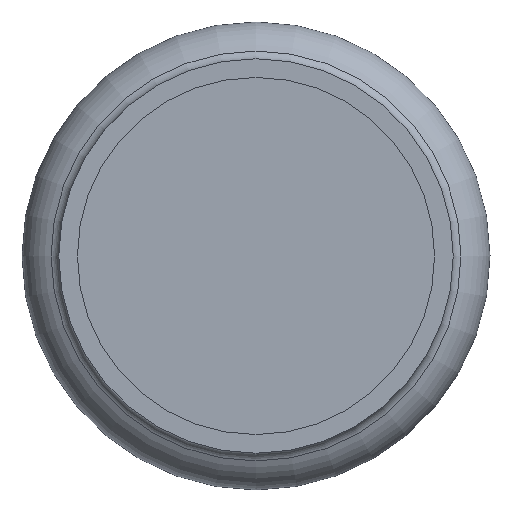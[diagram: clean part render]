
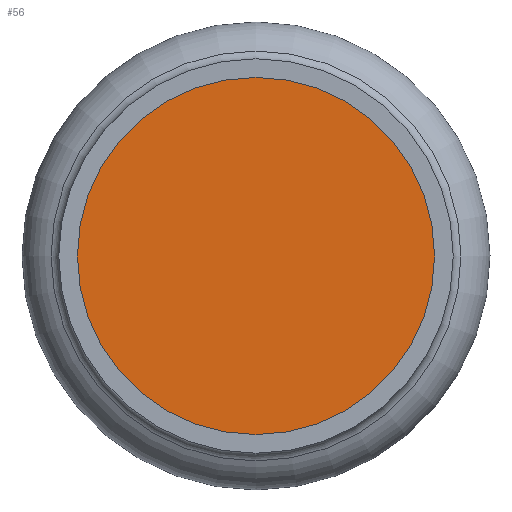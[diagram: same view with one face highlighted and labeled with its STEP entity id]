
A CAD part, front view. The second image highlights one B-rep face of the part: STEP entity #56.
In plain terms, the highlighted planar face has unit normal (0, -1, 0).
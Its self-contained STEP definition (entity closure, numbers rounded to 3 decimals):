
#56=ADVANCED_FACE('',(#97),#99,.T.);
#97=FACE_BOUND('',#98,.T.);
#98=EDGE_LOOP('',(#244));
#99=PLANE('',#100);
#100=AXIS2_PLACEMENT_3D('',#101,#102,#103);
#101=CARTESIAN_POINT('',(0.,-27.219,0.));
#102=DIRECTION('',(0.,-1.,0.));
#103=DIRECTION('',(0.,0.,-1.));
#244=ORIENTED_EDGE('',*,*,#277,.T.);
#277=EDGE_CURVE('',#297,#297,#298,.F.);
#297=VERTEX_POINT('',#339);
#298=CIRCLE('',#340,14.15);
#339=CARTESIAN_POINT('',(0.,-27.219,14.15));
#340=AXIS2_PLACEMENT_3D('',#341,#342,#343);
#341=CARTESIAN_POINT('',(0.,-27.219,0.));
#342=DIRECTION('',(0.,1.,0.));
#343=DIRECTION('',(0.,0.,1.));
